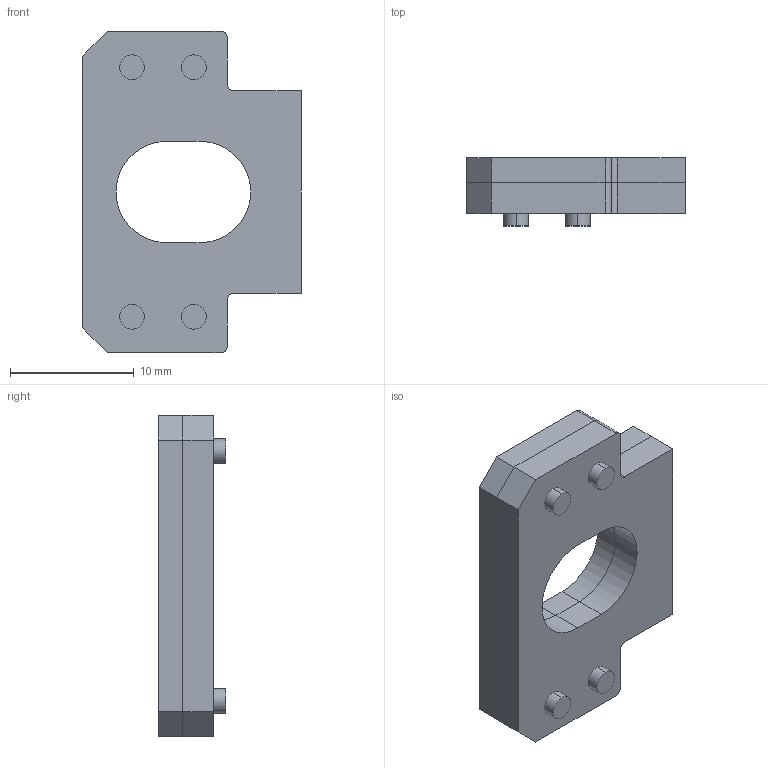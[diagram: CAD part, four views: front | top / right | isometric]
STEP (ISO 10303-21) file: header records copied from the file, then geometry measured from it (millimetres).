
FILE_DESCRIPTION(/* description */ (''),/* implementation_level */ '2;1');
FILE_NAME(/* name */ 'STP25GP-GT4.5.stp',/* time_stamp */ '2020-06-16T15:12:23+09:00',/* author */ (''),/* organization */ (''),/* preprocessor_version */ 'ST-DEVELOPER v16',/* originating_system */ 'SIEMENS PLM Software NX 11.0',/* authorisation */ '');
FILE_SCHEMA (('AP203_CONFIGURATION_CONTROLLED_3D_DESIGN_OF_MECHANICAL_PARTS_AND_ASSEMBLIES_MIM_LF { 1 0 10303 403 2 1 2}'));
Length unit declared in the file: millimetre
Products named in the file (1): STP25GP-GT4.5
Bounding box: 17.7 x 5.5 x 26 mm (x, y, z)
Volume: 1452.7 mm3; surface area: 1905.3 mm2
Topology: 2 solids, 2 shells, 96 faces, 220 edges, 144 vertices
Faces by surface type: plane 44, cylinder 44, cone 8
Entity records: 2843 total; most frequent: DIRECTION 510, CARTESIAN_POINT 461, ORIENTED_EDGE 440, EDGE_CURVE 220, AXIS2_PLACEMENT_3D 193, VERTEX_POINT 144, LINE 124, VECTOR 124
